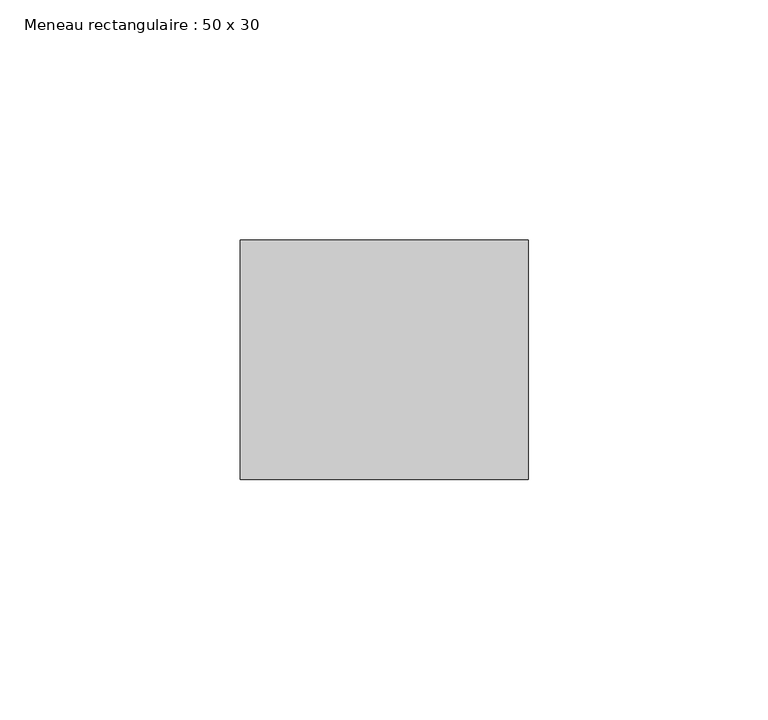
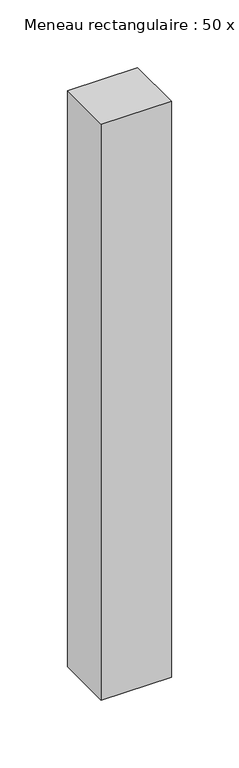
"""IFC4 building model written with IfcOpenShell, lengths in millimetres: member geometry, Meneau rectangulaire : 50 x 30."""

from ifc_helpers import new_model, si_unit, frame, origin, place, context, project, spatial, polyline, outline, extrude, source, transform, mapped, element, save


def meneau_rectangulaire_50_x_30_122f76e2(model_context):
    return source(origin(), model_context, "Body", "SweptSolid", [
        extrude(outline(polyline([(0.0, 0.0), (0.0, -50.0), (-60.0, -50.0), (-60.0, 0.0), (0.0, 0.0)])), frame((0.0, 0.0, -520.0), z_axis=(0.0, 0.0, 1.0), x_axis=(1.0, 0.0, 0.0)), (0.0, 0.0, 1.0), 520.0),
    ])


if __name__ == "__main__":
    model = new_model("IFC4")
    model_context = context("Model", 3, world=origin())
    ifc_project = project(units=[si_unit("LENGTHUNIT", "METRE", prefix="MILLI")], contexts=[model_context])
    site = spatial("IfcSite", under=ifc_project)
    building = spatial("IfcBuilding", under=site)
    placement = place(None, origin())
    meneau_rectangulaire_50_x_30_shape = meneau_rectangulaire_50_x_30_122f76e2(model_context)
    element("IfcMember", 1, ObjectType="Meneau rectangulaire : 50 x 30", at=placement, inside=building, context=model_context, shape_type="MappedRepresentation", body=[
        mapped(meneau_rectangulaire_50_x_30_shape, transform((0.0, 0.0, 0.0), x_axis=(1.0, 0.0, 0.0), y_axis=(0.0, 1.0, 0.0), z_axis=(0.0, 0.0, 1.0))),
    ])
    save(model, "model.ifc")
